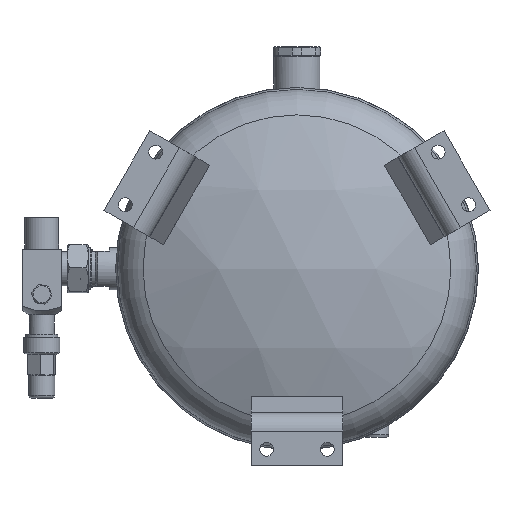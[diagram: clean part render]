
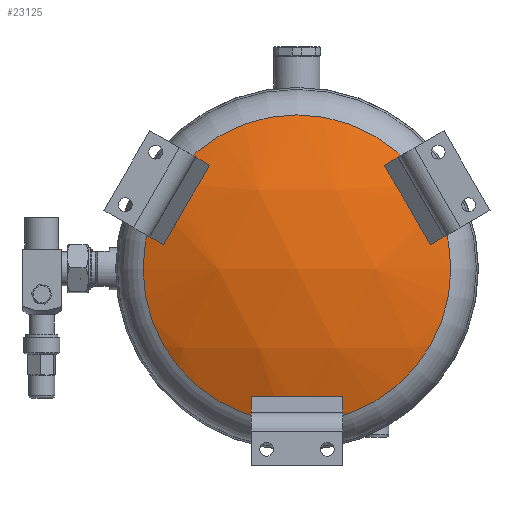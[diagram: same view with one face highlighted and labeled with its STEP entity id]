
A CAD part, front view. The second image highlights one B-rep face of the part: STEP entity #23125.
In plain terms, the highlighted spherical face has radius 279 mm.
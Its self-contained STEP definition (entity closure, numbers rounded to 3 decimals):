
#796=SPHERICAL_SURFACE('',#24640,279.);
#6074=FACE_BOUND('',#7839,.T.);
#6075=FACE_BOUND('',#7840,.T.);
#6076=FACE_BOUND('',#7841,.T.);
#6390=FACE_OUTER_BOUND('',#7838,.T.);
#7838=EDGE_LOOP('',(#16370));
#7839=EDGE_LOOP('',(#16371,#16372,#16373,#16374));
#7840=EDGE_LOOP('',(#16375,#16376,#16377,#16378));
#7841=EDGE_LOOP('',(#16379,#16380,#16381,#16382));
#9413=CIRCLE('',#24641,117.235);
#9414=CIRCLE('',#24642,278.892);
#9415=CIRCLE('',#24643,18.937);
#9416=CIRCLE('',#24644,279.);
#9417=CIRCLE('',#24645,18.937);
#9418=CIRCLE('',#24646,278.892);
#9419=CIRCLE('',#24647,18.937);
#9420=CIRCLE('',#24648,279.);
#9421=CIRCLE('',#24649,18.937);
#9422=CIRCLE('',#24650,278.892);
#9423=CIRCLE('',#24651,18.937);
#9424=CIRCLE('',#24652,279.);
#9425=CIRCLE('',#24653,18.937);
#10078=VERTEX_POINT('',#33094);
#10079=VERTEX_POINT('',#33096);
#10080=VERTEX_POINT('',#33097);
#10081=VERTEX_POINT('',#33099);
#10082=VERTEX_POINT('',#33101);
#10083=VERTEX_POINT('',#33104);
#10084=VERTEX_POINT('',#33105);
#10085=VERTEX_POINT('',#33107);
#10086=VERTEX_POINT('',#33109);
#10087=VERTEX_POINT('',#33112);
#10088=VERTEX_POINT('',#33113);
#10089=VERTEX_POINT('',#33115);
#10090=VERTEX_POINT('',#33117);
#12546=EDGE_CURVE('',#10078,#10078,#9413,.T.);
#12547=EDGE_CURVE('',#10079,#10080,#9414,.T.);
#12548=EDGE_CURVE('',#10080,#10081,#9415,.T.);
#12549=EDGE_CURVE('',#10081,#10082,#9416,.T.);
#12550=EDGE_CURVE('',#10082,#10079,#9417,.T.);
#12551=EDGE_CURVE('',#10083,#10084,#9418,.T.);
#12552=EDGE_CURVE('',#10084,#10085,#9419,.T.);
#12553=EDGE_CURVE('',#10085,#10086,#9420,.T.);
#12554=EDGE_CURVE('',#10086,#10083,#9421,.T.);
#12555=EDGE_CURVE('',#10087,#10088,#9422,.T.);
#12556=EDGE_CURVE('',#10088,#10089,#9423,.T.);
#12557=EDGE_CURVE('',#10089,#10090,#9424,.T.);
#12558=EDGE_CURVE('',#10090,#10087,#9425,.T.);
#16370=ORIENTED_EDGE('',*,*,#12546,.T.);
#16371=ORIENTED_EDGE('',*,*,#12547,.T.);
#16372=ORIENTED_EDGE('',*,*,#12548,.T.);
#16373=ORIENTED_EDGE('',*,*,#12549,.T.);
#16374=ORIENTED_EDGE('',*,*,#12550,.T.);
#16375=ORIENTED_EDGE('',*,*,#12551,.T.);
#16376=ORIENTED_EDGE('',*,*,#12552,.T.);
#16377=ORIENTED_EDGE('',*,*,#12553,.T.);
#16378=ORIENTED_EDGE('',*,*,#12554,.T.);
#16379=ORIENTED_EDGE('',*,*,#12555,.T.);
#16380=ORIENTED_EDGE('',*,*,#12556,.T.);
#16381=ORIENTED_EDGE('',*,*,#12557,.T.);
#16382=ORIENTED_EDGE('',*,*,#12558,.T.);
#23125=ADVANCED_FACE('',(#6390,#6074,#6075,#6076),#796,.T.);
#24640=AXIS2_PLACEMENT_3D('',#33093,#26993,#26994);
#24641=AXIS2_PLACEMENT_3D('',#33095,#26995,#26996);
#24642=AXIS2_PLACEMENT_3D('',#33098,#26997,#26998);
#24643=AXIS2_PLACEMENT_3D('',#33100,#26999,#27000);
#24644=AXIS2_PLACEMENT_3D('',#33102,#27001,#27002);
#24645=AXIS2_PLACEMENT_3D('',#33103,#27003,#27004);
#24646=AXIS2_PLACEMENT_3D('',#33106,#27005,#27006);
#24647=AXIS2_PLACEMENT_3D('',#33108,#27007,#27008);
#24648=AXIS2_PLACEMENT_3D('',#33110,#27009,#27010);
#24649=AXIS2_PLACEMENT_3D('',#33111,#27011,#27012);
#24650=AXIS2_PLACEMENT_3D('',#33114,#27013,#27014);
#24651=AXIS2_PLACEMENT_3D('',#33116,#27015,#27016);
#24652=AXIS2_PLACEMENT_3D('',#33118,#27017,#27018);
#24653=AXIS2_PLACEMENT_3D('',#33119,#27019,#27020);
#26993=DIRECTION('center_axis',(0.,0.,1.));
#26994=DIRECTION('ref_axis',(1.,0.,0.));
#26995=DIRECTION('center_axis',(0.,-1.,0.));
#26996=DIRECTION('ref_axis',(-1.,0.,0.));
#26997=DIRECTION('center_axis',(-0.803,-0.375,-0.464));
#26998=DIRECTION('ref_axis',(0.,-0.778,0.629));
#26999=DIRECTION('center_axis',(-0.324,0.927,-0.187));
#27000=DIRECTION('ref_axis',(0.,-0.198,-0.98));
#27001=DIRECTION('center_axis',(0.803,0.375,0.464));
#27002=DIRECTION('ref_axis',(0.,0.778,-0.629));
#27003=DIRECTION('center_axis',(-0.324,0.927,-0.187));
#27004=DIRECTION('ref_axis',(0.,-0.198,-0.98));
#27005=DIRECTION('center_axis',(0.803,-0.375,-0.464));
#27006=DIRECTION('ref_axis',(0.,-0.778,0.629));
#27007=DIRECTION('center_axis',(0.324,0.927,-0.187));
#27008=DIRECTION('ref_axis',(0.,-0.198,-0.98));
#27009=DIRECTION('center_axis',(-0.803,0.375,0.464));
#27010=DIRECTION('ref_axis',(0.,0.778,-0.629));
#27011=DIRECTION('center_axis',(0.324,0.927,-0.187));
#27012=DIRECTION('ref_axis',(0.,-0.198,-0.98));
#27013=DIRECTION('center_axis',(0.,-0.375,
0.927));
#27014=DIRECTION('ref_axis',(0.,0.927,0.375));
#27015=DIRECTION('center_axis',(0.,0.927,
0.375));
#27016=DIRECTION('ref_axis',(0.,0.375,-0.927));
#27017=DIRECTION('center_axis',(0.,0.375,
-0.927));
#27018=DIRECTION('ref_axis',(0.,-0.927,-0.375));
#27019=DIRECTION('center_axis',(0.,0.927,
0.375));
#27020=DIRECTION('ref_axis',(0.,0.375,-0.927));
#33093=CARTESIAN_POINT('Origin',(0.,191.807,
0.));
#33094=CARTESIAN_POINT('',(-117.235,-61.367,0.));
#33095=CARTESIAN_POINT('Origin',(0.,-61.367,
0.));
#33096=CARTESIAN_POINT('',(92.704,-69.19,33.58));
#33097=CARTESIAN_POINT('',(75.433,-69.19,63.494));
#33098=CARTESIAN_POINT('Origin',(-6.236,188.898,-3.6));
#33099=CARTESIAN_POINT('',(81.024,-66.193,68.644));
#33100=CARTESIAN_POINT('Origin',(90.304,-66.281,52.137));
#33101=CARTESIAN_POINT('',(99.96,-66.193,35.847));
#33102=CARTESIAN_POINT('Origin',(0.188,191.895,0.109));
#33103=CARTESIAN_POINT('Origin',(90.304,-66.281,52.137));
#33104=CARTESIAN_POINT('',(-75.433,-69.19,63.494));
#33105=CARTESIAN_POINT('',(-92.704,-69.19,33.58));
#33106=CARTESIAN_POINT('Origin',(6.236,188.898,-3.6));
#33107=CARTESIAN_POINT('',(-99.96,-66.193,35.847));
#33108=CARTESIAN_POINT('Origin',(-90.304,-66.281,52.137));
#33109=CARTESIAN_POINT('',(-81.024,-66.193,68.644));
#33110=CARTESIAN_POINT('Origin',(-0.188,191.895,0.109));
#33111=CARTESIAN_POINT('Origin',(-90.304,-66.281,52.137));
#33112=CARTESIAN_POINT('',(-17.271,-69.19,-97.074));
#33113=CARTESIAN_POINT('',(17.271,-69.19,-97.074));
#33114=CARTESIAN_POINT('Origin',(0.,188.898,
7.2));
#33115=CARTESIAN_POINT('',(18.935,-66.193,-104.491));
#33116=CARTESIAN_POINT('Origin',(0.,-66.281,
-104.274));
#33117=CARTESIAN_POINT('',(-18.935,-66.193,-104.491));
#33118=CARTESIAN_POINT('Origin',(0.,191.895,
-0.217));
#33119=CARTESIAN_POINT('Origin',(0.,-66.281,
-104.274));
